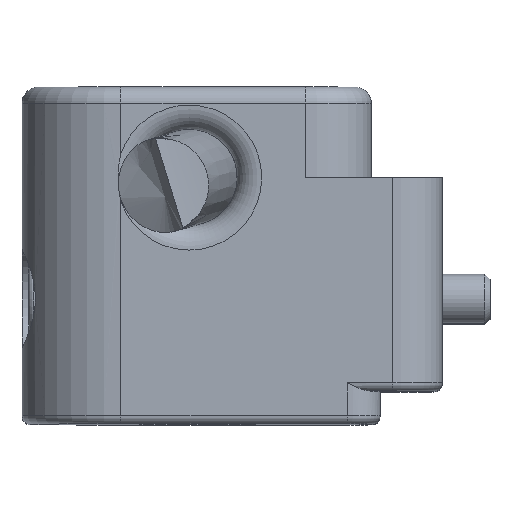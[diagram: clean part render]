
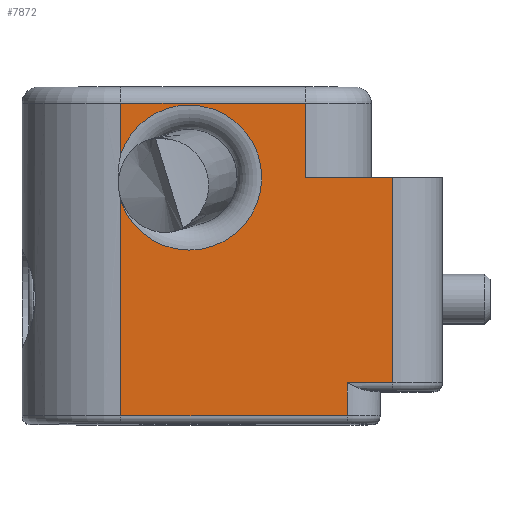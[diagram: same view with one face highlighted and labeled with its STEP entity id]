
A CAD part, top view. The second image highlights one B-rep face of the part: STEP entity #7872.
In plain terms, the highlighted planar face has unit normal (0, 0, 1).
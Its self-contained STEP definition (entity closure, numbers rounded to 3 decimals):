
#867=CIRCLE('',#8751,4.4);
#868=CIRCLE('',#8752,4.4);
#1300=FACE_OUTER_BOUND('',#1790,.T.);
#1790=EDGE_LOOP('',(#6391,#6392,#6393,#6394,#6395,#6396,#6397,#6398,#6399,
#6400,#6401));
#2264=LINE('',#14340,#2763);
#2266=LINE('',#14345,#2765);
#2272=LINE('',#14360,#2771);
#2293=LINE('',#14491,#2792);
#2295=LINE('',#14497,#2794);
#2296=LINE('',#14498,#2795);
#2297=LINE('',#14500,#2796);
#2298=LINE('',#14506,#2797);
#2299=LINE('',#14507,#2798);
#2763=VECTOR('',#10731,10.);
#2765=VECTOR('',#10737,10.);
#2771=VECTOR('',#10753,10.);
#2792=VECTOR('',#10840,10.);
#2794=VECTOR('',#10846,10.);
#2795=VECTOR('',#10847,3.);
#2796=VECTOR('',#10848,10.);
#2797=VECTOR('',#10853,10.);
#2798=VECTOR('',#10854,10.);
#3411=VERTEX_POINT('',#14270);
#3427=VERTEX_POINT('',#14335);
#3428=VERTEX_POINT('',#14344);
#3432=VERTEX_POINT('',#14359);
#3472=VERTEX_POINT('',#14469);
#3473=VERTEX_POINT('',#14473);
#3476=VERTEX_POINT('',#14496);
#3477=VERTEX_POINT('',#14499);
#3478=VERTEX_POINT('',#14501);
#3479=VERTEX_POINT('',#14503);
#3480=VERTEX_POINT('',#14505);
#4429=EDGE_CURVE('',#3411,#3427,#2264,.T.);
#4431=EDGE_CURVE('',#3427,#3428,#2266,.T.);
#4439=EDGE_CURVE('',#3432,#3428,#2272,.T.);
#4488=EDGE_CURVE('',#3473,#3472,#2293,.T.);
#4491=EDGE_CURVE('',#3473,#3476,#2295,.T.);
#4492=EDGE_CURVE('',#3432,#3476,#2296,.T.);
#4493=EDGE_CURVE('',#3477,#3411,#2297,.T.);
#4494=EDGE_CURVE('',#3478,#3477,#867,.T.);
#4495=EDGE_CURVE('',#3479,#3478,#868,.T.);
#4496=EDGE_CURVE('',#3480,#3479,#2298,.T.);
#4497=EDGE_CURVE('',#3472,#3480,#2299,.T.);
#6391=ORIENTED_EDGE('',*,*,#4488,.F.);
#6392=ORIENTED_EDGE('',*,*,#4491,.T.);
#6393=ORIENTED_EDGE('',*,*,#4492,.F.);
#6394=ORIENTED_EDGE('',*,*,#4439,.T.);
#6395=ORIENTED_EDGE('',*,*,#4431,.F.);
#6396=ORIENTED_EDGE('',*,*,#4429,.F.);
#6397=ORIENTED_EDGE('',*,*,#4493,.F.);
#6398=ORIENTED_EDGE('',*,*,#4494,.F.);
#6399=ORIENTED_EDGE('',*,*,#4495,.F.);
#6400=ORIENTED_EDGE('',*,*,#4496,.F.);
#6401=ORIENTED_EDGE('',*,*,#4497,.F.);
#7020=PLANE('',#8750);
#7872=ADVANCED_FACE('',(#1300),#7020,.T.);
#8750=AXIS2_PLACEMENT_3D('',#14495,#10844,#10845);
#8751=AXIS2_PLACEMENT_3D('',#14502,#10849,#10850);
#8752=AXIS2_PLACEMENT_3D('',#14504,#10851,#10852);
#10731=DIRECTION('',(1.,0.,0.));
#10737=DIRECTION('',(0.,-1.,0.));
#10753=DIRECTION('',(-1.,0.,0.));
#10840=DIRECTION('',(0.,-1.,0.));
#10844=DIRECTION('center_axis',(0.,0.,
1.));
#10845=DIRECTION('ref_axis',(0.,1.,0.));
#10846=DIRECTION('',(1.,0.,0.));
#10847=DIRECTION('',(0.,-1.,0.));
#10848=DIRECTION('',(0.,1.,0.));
#10849=DIRECTION('center_axis',(0.,0.,
1.));
#10850=DIRECTION('ref_axis',(0.,1.,0.));
#10851=DIRECTION('center_axis',(0.,0.,
1.));
#10852=DIRECTION('ref_axis',(0.,1.,0.));
#10853=DIRECTION('',(0.,1.,0.));
#10854=DIRECTION('',(-1.,0.,0.));
#14270=CARTESIAN_POINT('',(-5.05,28.6,19.));
#14335=CARTESIAN_POINT('',(6.15,28.6,19.));
#14340=CARTESIAN_POINT('',(-5.75,28.6,19.));
#14344=CARTESIAN_POINT('',(6.15,24.1,19.));
#14345=CARTESIAN_POINT('',(6.15,29.6,19.));
#14359=CARTESIAN_POINT('',(11.45,24.1,19.));
#14360=CARTESIAN_POINT('',(14.45,24.1,19.));
#14469=CARTESIAN_POINT('',(8.69,9.65,19.));
#14473=CARTESIAN_POINT('',(8.69,11.65,19.));
#14491=CARTESIAN_POINT('',(8.69,9.15,19.));
#14495=CARTESIAN_POINT('Origin',(-11.05,24.1,19.));
#14496=CARTESIAN_POINT('',(11.45,11.65,19.));
#14497=CARTESIAN_POINT('',(14.771,11.65,19.));
#14498=CARTESIAN_POINT('',(11.45,24.1,19.));
#14499=CARTESIAN_POINT('',(-5.05,25.562,19.));
#14500=CARTESIAN_POINT('',(-5.05,29.6,19.));
#14501=CARTESIAN_POINT('',(-0.9,28.5,19.));
#14502=CARTESIAN_POINT('Origin',(-0.9,24.1,19.));
#14503=CARTESIAN_POINT('',(-5.05,22.638,19.));
#14504=CARTESIAN_POINT('Origin',(-0.9,24.1,19.));
#14505=CARTESIAN_POINT('',(-5.05,9.65,19.));
#14506=CARTESIAN_POINT('',(-5.05,24.1,19.));
#14507=CARTESIAN_POINT('',(-4.675,9.65,19.));
